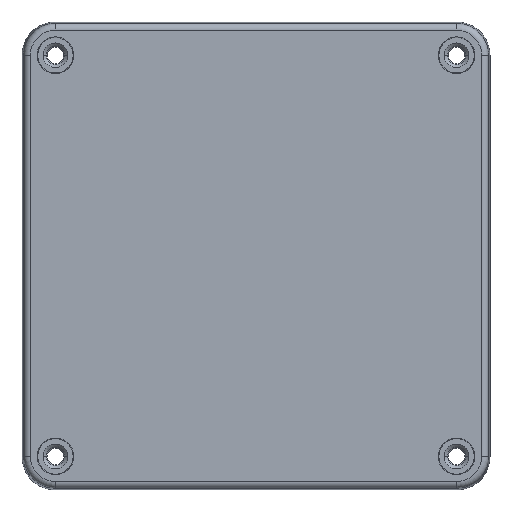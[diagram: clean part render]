
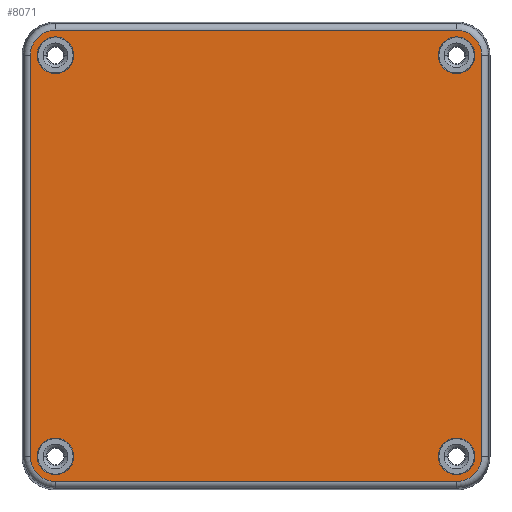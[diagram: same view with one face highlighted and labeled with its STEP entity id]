
A CAD part, top view. The second image highlights one B-rep face of the part: STEP entity #8071.
In plain terms, the highlighted planar face has unit normal (0, 0, 1) as drawn and (0, 0, -1) by its records, which use the part's own axes.
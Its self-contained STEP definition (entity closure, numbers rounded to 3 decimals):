
#25 = EDGE_CURVE ( 'NONE', #12143, #850, #4692, .T. ) ;
#92 = EDGE_CURVE ( 'NONE', #18365, #12143, #919, .T. ) ;
#181 = CIRCLE ( 'NONE', #8347, 5.5 ) ;
#669 = CIRCLE ( 'NONE', #3436, 5.5 ) ;
#850 = VERTEX_POINT ( 'NONE', #3328 ) ;
#919 = LINE ( 'NONE', #12991, #5440 ) ;
#921 = LINE ( 'NONE', #18065, #3202 ) ;
#1195 = CARTESIAN_POINT ( 'NONE',  ( -60., 60., 0. ) ) ;
#1271 = CARTESIAN_POINT ( 'NONE',  ( -60., 60., 0. ) ) ;
#1396 = DIRECTION ( 'NONE',  ( 0., 0., -1. ) ) ;
#1422 = FACE_BOUND ( 'NONE', #6954, .T. ) ;
#1434 = EDGE_CURVE ( 'NONE', #15768, #16970, #18155, .T. ) ;
#1543 = DIRECTION ( 'NONE',  ( -1., 0., 0. ) ) ;
#1631 = AXIS2_PLACEMENT_3D ( 'NONE', #11505, #4865, #16067 ) ;
#1878 = EDGE_LOOP ( 'NONE', ( #20039, #10484 ) ) ;
#1922 = EDGE_CURVE ( 'NONE', #850, #20797, #3888, .T. ) ;
#2013 = CARTESIAN_POINT ( 'NONE',  ( 65.5, 60., 0. ) ) ;
#2137 = EDGE_CURVE ( 'NONE', #6190, #7348, #6878, .T. ) ;
#2160 = CARTESIAN_POINT ( 'NONE',  ( 0., -67.511, 0. ) ) ;
#2441 = CARTESIAN_POINT ( 'NONE',  ( -60., 60., 0. ) ) ;
#2442 = CARTESIAN_POINT ( 'NONE',  ( 67.511, 0., 0. ) ) ;
#2467 = VERTEX_POINT ( 'NONE', #11567 ) ;
#2469 = AXIS2_PLACEMENT_3D ( 'NONE', #1195, #4230, #15554 ) ;
#2568 = CARTESIAN_POINT ( 'NONE',  ( 60., -67.511, 0. ) ) ;
#2571 = CARTESIAN_POINT ( 'NONE',  ( -60., -60., 0. ) ) ;
#2624 = DIRECTION ( 'NONE',  ( 0., 0., -1. ) ) ;
#2646 = DIRECTION ( 'NONE',  ( -1., 0., 0. ) ) ;
#2802 = AXIS2_PLACEMENT_3D ( 'NONE', #18976, #1396, #19109 ) ;
#2848 = CIRCLE ( 'NONE', #12730, 5.5 ) ;
#2940 = FACE_BOUND ( 'NONE', #5699, .T. ) ;
#3168 = ORIENTED_EDGE ( 'NONE', *, *, #25, .T. ) ;
#3202 = VECTOR ( 'NONE', #9571, 1000. ) ;
#3328 = CARTESIAN_POINT ( 'NONE',  ( 67.511, 60., 0. ) ) ;
#3401 = CARTESIAN_POINT ( 'NONE',  ( -60., -67.511, 0. ) ) ;
#3411 = DIRECTION ( 'NONE',  ( 1., 0., 0. ) ) ;
#3436 = AXIS2_PLACEMENT_3D ( 'NONE', #18551, #11969, #15335 ) ;
#3484 = AXIS2_PLACEMENT_3D ( 'NONE', #4001, #16782, #11957 ) ;
#3678 = VERTEX_POINT ( 'NONE', #3401 ) ;
#3714 = ORIENTED_EDGE ( 'NONE', *, *, #2137, .F. ) ;
#3888 = LINE ( 'NONE', #2442, #12376 ) ;
#4001 = CARTESIAN_POINT ( 'NONE',  ( 0., 0., 0. ) ) ;
#4043 = DIRECTION ( 'NONE',  ( -1., 0., 0. ) ) ;
#4167 = DIRECTION ( 'NONE',  ( -1., 0., 0. ) ) ;
#4191 = CARTESIAN_POINT ( 'NONE',  ( 60., -60., 0. ) ) ;
#4230 = DIRECTION ( 'NONE',  ( 0., 0., -1. ) ) ;
#4651 = DIRECTION ( 'NONE',  ( 0., 0., -1. ) ) ;
#4692 = CIRCLE ( 'NONE', #1631, 7.511 ) ;
#4760 = EDGE_LOOP ( 'NONE', ( #12014, #3168, #7010, #17371, #18315, #11519, #17528, #16863 ) ) ;
#4865 = DIRECTION ( 'NONE',  ( 0., 0., -1. ) ) ;
#5440 = VECTOR ( 'NONE', #3411, 1000. ) ;
#5699 = EDGE_LOOP ( 'NONE', ( #6578, #10203 ) ) ;
#5818 = EDGE_CURVE ( 'NONE', #20797, #11228, #20082, .T. ) ;
#6186 = EDGE_CURVE ( 'NONE', #11228, #3678, #16319, .T. ) ;
#6190 = VERTEX_POINT ( 'NONE', #20075 ) ;
#6434 = CARTESIAN_POINT ( 'NONE',  ( 54.5, -60., 0. ) ) ;
#6548 = VERTEX_POINT ( 'NONE', #20690 ) ;
#6578 = ORIENTED_EDGE ( 'NONE', *, *, #19563, .F. ) ;
#6878 = CIRCLE ( 'NONE', #16674, 5.5 ) ;
#6954 = EDGE_LOOP ( 'NONE', ( #3714, #7308 ) ) ;
#7010 = ORIENTED_EDGE ( 'NONE', *, *, #1922, .T. ) ;
#7308 = ORIENTED_EDGE ( 'NONE', *, *, #9638, .F. ) ;
#7348 = VERTEX_POINT ( 'NONE', #16412 ) ;
#7430 = FACE_BOUND ( 'NONE', #9745, .T. ) ;
#7539 = CARTESIAN_POINT ( 'NONE',  ( 67.511, -60., 0. ) ) ;
#7600 = DIRECTION ( 'NONE',  ( 0., 0., -1. ) ) ;
#7964 = EDGE_CURVE ( 'NONE', #16514, #2467, #921, .T. ) ;
#7969 = EDGE_CURVE ( 'NONE', #6548, #14234, #17463, .T. ) ;
#8018 = VECTOR ( 'NONE', #2646, 1000. ) ;
#8071 = ADVANCED_FACE ( 'NONE', ( #7430, #2940, #1422, #16459, #20203 ), #13515, .F. ) ;
#8239 = VERTEX_POINT ( 'NONE', #18273 ) ;
#8347 = AXIS2_PLACEMENT_3D ( 'NONE', #1271, #12553, #12751 ) ;
#9210 = DIRECTION ( 'NONE',  ( -1., 0., 0. ) ) ;
#9571 = DIRECTION ( 'NONE',  ( 0., 1., 0. ) ) ;
#9638 = EDGE_CURVE ( 'NONE', #7348, #6190, #18399, .T. ) ;
#9745 = EDGE_LOOP ( 'NONE', ( #11410, #14245 ) ) ;
#10203 = ORIENTED_EDGE ( 'NONE', *, *, #20725, .F. ) ;
#10484 = ORIENTED_EDGE ( 'NONE', *, *, #7969, .F. ) ;
#10595 = DIRECTION ( 'NONE',  ( -1., 0., 0. ) ) ;
#10905 = CARTESIAN_POINT ( 'NONE',  ( -60., 67.511, 0. ) ) ;
#11024 = DIRECTION ( 'NONE',  ( 0., 0., -1. ) ) ;
#11228 = VERTEX_POINT ( 'NONE', #2568 ) ;
#11410 = ORIENTED_EDGE ( 'NONE', *, *, #1434, .F. ) ;
#11505 = CARTESIAN_POINT ( 'NONE',  ( 60., 60., 0. ) ) ;
#11519 = ORIENTED_EDGE ( 'NONE', *, *, #20715, .T. ) ;
#11567 = CARTESIAN_POINT ( 'NONE',  ( -67.511, 60., 0. ) ) ;
#11867 = AXIS2_PLACEMENT_3D ( 'NONE', #2441, #13630, #4043 ) ;
#11957 = DIRECTION ( 'NONE',  ( 1., 0., 0. ) ) ;
#11969 = DIRECTION ( 'NONE',  ( 0., 0., -1. ) ) ;
#12014 = ORIENTED_EDGE ( 'NONE', *, *, #92, .T. ) ;
#12025 = CARTESIAN_POINT ( 'NONE',  ( -65.5, 60., 0. ) ) ;
#12120 = CARTESIAN_POINT ( 'NONE',  ( 60., 60., 0. ) ) ;
#12143 = VERTEX_POINT ( 'NONE', #19377 ) ;
#12301 = CARTESIAN_POINT ( 'NONE',  ( -67.511, -60., 0. ) ) ;
#12376 = VECTOR ( 'NONE', #14910, 1000. ) ;
#12544 = EDGE_CURVE ( 'NONE', #2467, #18365, #19601, .T. ) ;
#12553 = DIRECTION ( 'NONE',  ( 0., 0., -1. ) ) ;
#12627 = AXIS2_PLACEMENT_3D ( 'NONE', #12120, #2624, #4167 ) ;
#12730 = AXIS2_PLACEMENT_3D ( 'NONE', #4191, #7600, #10595 ) ;
#12751 = DIRECTION ( 'NONE',  ( -1., 0., 0. ) ) ;
#12991 = CARTESIAN_POINT ( 'NONE',  ( 0., 67.511, 0. ) ) ;
#13515 = PLANE ( 'NONE',  #3484 ) ;
#13630 = DIRECTION ( 'NONE',  ( 0., 0., -1. ) ) ;
#13838 = DIRECTION ( 'NONE',  ( 0., 0., -1. ) ) ;
#14234 = VERTEX_POINT ( 'NONE', #6434 ) ;
#14245 = ORIENTED_EDGE ( 'NONE', *, *, #20020, .F. ) ;
#14910 = DIRECTION ( 'NONE',  ( 0., -1., 0. ) ) ;
#15335 = DIRECTION ( 'NONE',  ( -1., 0., 0. ) ) ;
#15554 = DIRECTION ( 'NONE',  ( 1., 0., 0. ) ) ;
#15578 = CARTESIAN_POINT ( 'NONE',  ( -60., -60., 0. ) ) ;
#15768 = VERTEX_POINT ( 'NONE', #16250 ) ;
#15893 = AXIS2_PLACEMENT_3D ( 'NONE', #2571, #13838, #16833 ) ;
#15966 = CARTESIAN_POINT ( 'NONE',  ( 60., -60., 0. ) ) ;
#15986 = DIRECTION ( 'NONE',  ( -1., 0., 0. ) ) ;
#16067 = DIRECTION ( 'NONE',  ( 1., 0., 0. ) ) ;
#16096 = DIRECTION ( 'NONE',  ( 0., 0., -1. ) ) ;
#16250 = CARTESIAN_POINT ( 'NONE',  ( 54.5, 60., 0. ) ) ;
#16319 = LINE ( 'NONE', #2160, #8018 ) ;
#16412 = CARTESIAN_POINT ( 'NONE',  ( -54.5, -60., 0. ) ) ;
#16459 = FACE_BOUND ( 'NONE', #1878, .T. ) ;
#16465 = VERTEX_POINT ( 'NONE', #12025 ) ;
#16514 = VERTEX_POINT ( 'NONE', #12301 ) ;
#16674 = AXIS2_PLACEMENT_3D ( 'NONE', #15578, #11024, #9210 ) ;
#16782 = DIRECTION ( 'NONE',  ( 0., 0., 1. ) ) ;
#16833 = DIRECTION ( 'NONE',  ( 1., 0., 0. ) ) ;
#16863 = ORIENTED_EDGE ( 'NONE', *, *, #12544, .T. ) ;
#16970 = VERTEX_POINT ( 'NONE', #2013 ) ;
#17131 = EDGE_CURVE ( 'NONE', #14234, #6548, #2848, .T. ) ;
#17371 = ORIENTED_EDGE ( 'NONE', *, *, #5818, .T. ) ;
#17463 = CIRCLE ( 'NONE', #19293, 5.5 ) ;
#17528 = ORIENTED_EDGE ( 'NONE', *, *, #7964, .T. ) ;
#18065 = CARTESIAN_POINT ( 'NONE',  ( -67.511, 0., 0. ) ) ;
#18155 = CIRCLE ( 'NONE', #12627, 5.5 ) ;
#18273 = CARTESIAN_POINT ( 'NONE',  ( -54.5, 60., 0. ) ) ;
#18315 = ORIENTED_EDGE ( 'NONE', *, *, #6186, .T. ) ;
#18365 = VERTEX_POINT ( 'NONE', #10905 ) ;
#18399 = CIRCLE ( 'NONE', #18774, 5.5 ) ;
#18551 = CARTESIAN_POINT ( 'NONE',  ( 60., 60., 0. ) ) ;
#18774 = AXIS2_PLACEMENT_3D ( 'NONE', #18797, #4651, #15986 ) ;
#18797 = CARTESIAN_POINT ( 'NONE',  ( -60., -60., 0. ) ) ;
#18976 = CARTESIAN_POINT ( 'NONE',  ( 60., -60., 0. ) ) ;
#19109 = DIRECTION ( 'NONE',  ( 1., 0., 0. ) ) ;
#19293 = AXIS2_PLACEMENT_3D ( 'NONE', #15966, #16096, #1543 ) ;
#19377 = CARTESIAN_POINT ( 'NONE',  ( 60., 67.511, 0. ) ) ;
#19443 = CIRCLE ( 'NONE', #15893, 7.511 ) ;
#19563 = EDGE_CURVE ( 'NONE', #16465, #8239, #181, .T. ) ;
#19601 = CIRCLE ( 'NONE', #2469, 7.511 ) ;
#19954 = CIRCLE ( 'NONE', #11867, 5.5 ) ;
#20020 = EDGE_CURVE ( 'NONE', #16970, #15768, #669, .T. ) ;
#20039 = ORIENTED_EDGE ( 'NONE', *, *, #17131, .F. ) ;
#20075 = CARTESIAN_POINT ( 'NONE',  ( -65.5, -60., 0. ) ) ;
#20082 = CIRCLE ( 'NONE', #2802, 7.511 ) ;
#20203 = FACE_OUTER_BOUND ( 'NONE', #4760, .T. ) ;
#20690 = CARTESIAN_POINT ( 'NONE',  ( 65.5, -60., 0. ) ) ;
#20715 = EDGE_CURVE ( 'NONE', #3678, #16514, #19443, .T. ) ;
#20725 = EDGE_CURVE ( 'NONE', #8239, #16465, #19954, .T. ) ;
#20797 = VERTEX_POINT ( 'NONE', #7539 ) ;
